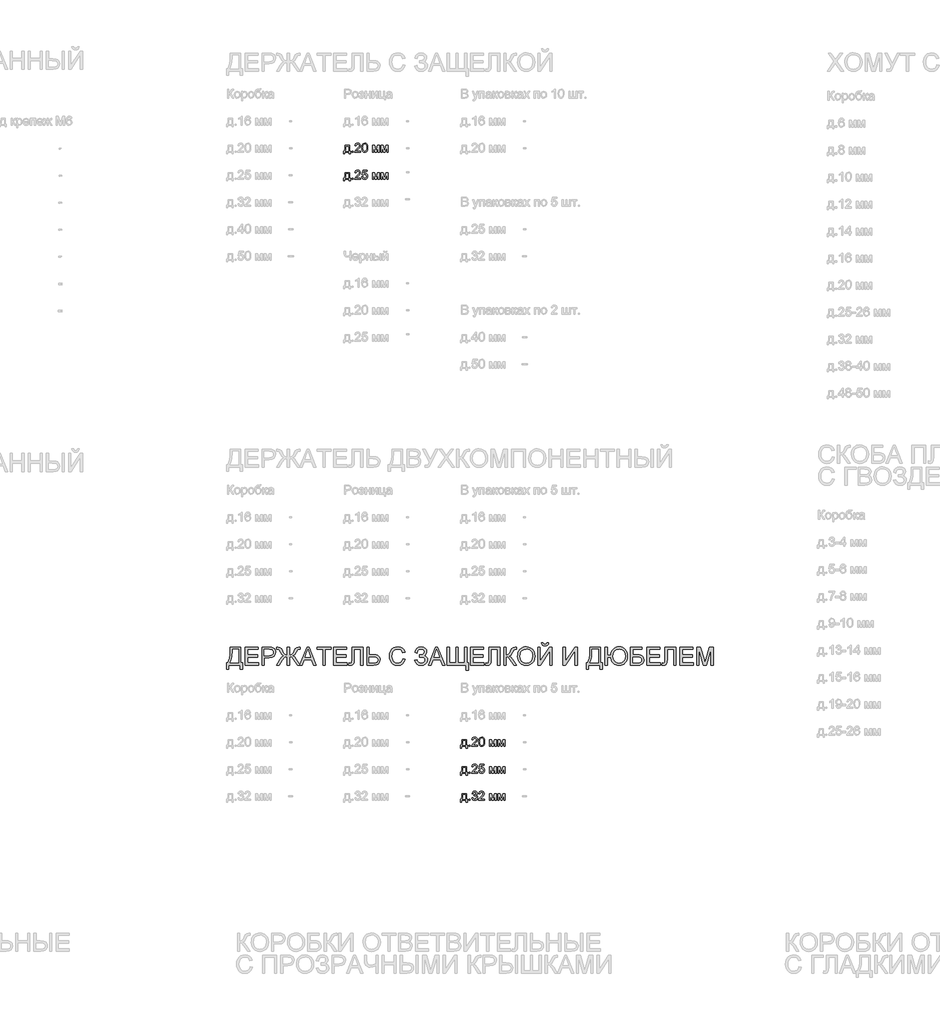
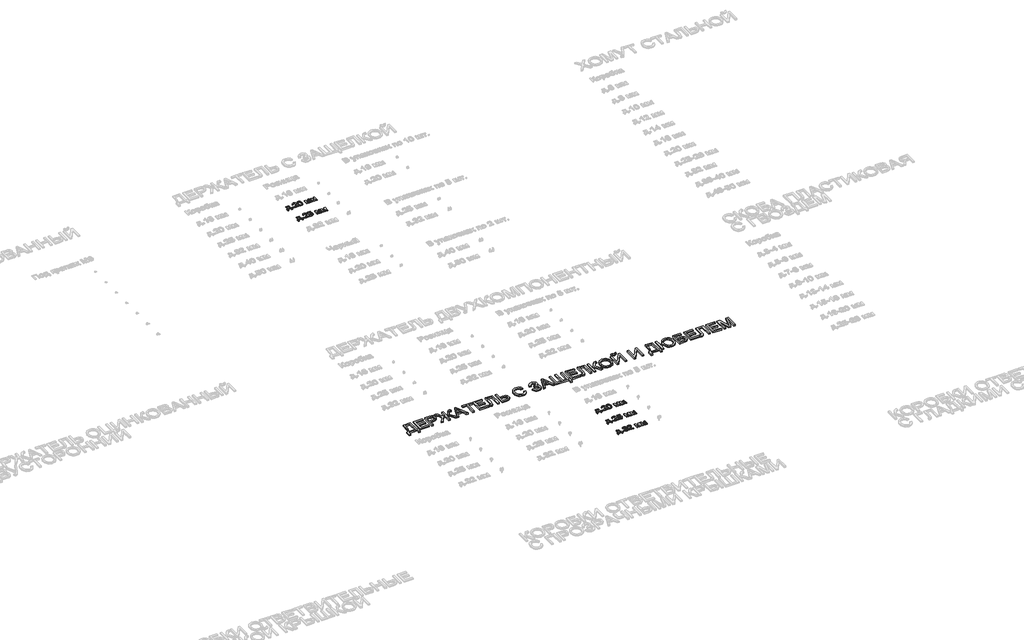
# One storey, part 42 of 98: 6 proxies.
"""IFC4 building model written with IfcOpenShell, lengths in millimetres."""

from ifc_helpers import new_model, si_unit, origin, origin_with_axes, place, context, project, spatial, polyline, outline, extrude, element, save

model = new_model("IFC4")

# Units and contexts
model_context = context("Model", 3, world=origin())
ifc_project = project(units=[si_unit("LENGTHUNIT", "METRE", prefix="MILLI")], contexts=[model_context])

# Site, building, storey
site = spatial("IfcSite", under=ifc_project)
building = spatial("IfcBuilding", under=site)
storey = spatial("IfcBuildingStorey", under=building, Name="Этаж 01", Elevation=0.0)

# Proxies
placement = place(None, origin())
element("IfcBuildingElementProxy", 1, Name="100", ObjectType="100", at=placement, inside=storey, context=model_context, shape_type="SweptSolid", body=[
    extrude(outline(polyline([(7074.7606918, -32485.7395637), (7121.8495872, -32485.7395637), (7121.8495872, -32546.9551277), (7131.2673663, -32546.9551277), (7131.2673663, -32579.9173545), (7118.7103275, -32579.9173545), (7118.7103275, -32559.5121665), (7066.9125426, -32559.5121665), (7066.9125426, -32579.9173545), (7054.3555038, -32579.9173545), (7054.3555038, -32546.9551277), (7062.2036531, -32546.9551277), (7071.903475, -32523.0060098), (7074.7606918, -32485.7395637)]), holes=[polyline([(7085.7481007, -32498.2966025), (7082.8050448, -32526.905559), (7076.3303217, -32546.9551277), (7109.2925484, -32546.9551277), (7109.2925484, -32498.2966025), (7085.7481007, -32498.2966025)])]), origin_with_axes(), (0.0, 0.0, 1.0), 10.0),
    extrude(outline(polyline([(7148.5332946, -32559.5121665), (7148.5332946, -32546.9551277), (7161.0903334, -32546.9551277), (7161.0903334, -32559.5121665), (7148.5332946, -32559.5121665)])), origin_with_axes(), (0.0, 0.0, 1.0), 10.0),
    extrude(outline(polyline([(7245.850345, -32546.9551277), (7245.850345, -32559.5121665), (7179.9258915, -32559.5121665), (7181.2747922, -32550.8546768), (7188.9022122, -32537.5250859), (7204.6230361, -32522.9692216), (7226.3035484, -32502.0489988), (7231.7236764, -32487.8242283), (7226.6101167, -32476.3095219), (7213.2560003, -32471.6128951), (7199.3377981, -32476.1991573), (7194.0525601, -32488.8788234), (7181.4955214, -32487.3091935), (7184.5397449, -32475.1629563), (7191.1217669, -32466.2908689), (7200.8982309, -32460.8646095), (7213.5257804, -32459.0558563), (7226.2453004, -32461.0669445), (7236.0033703, -32467.1002093), (7242.211379, -32476.1133182), (7244.2807152, -32487.0639389), (7242.0488978, -32498.9710528), (7234.6299442, -32511.2828369), (7216.6405146, -32528.4874515), (7202.195015, -32540.5662437), (7196.5296322, -32546.9551277), (7245.850345, -32546.9551277)])), origin_with_axes(), (0.0, 0.0, 1.0), 10.0),
    extrude(outline(polyline([(7258.4073838, -32510.0933518), (7262.0984665, -32481.1900897), (7273.06135, -32464.5250353), (7291.3696106, -32459.0558563), (7306.0358395, -32462.2932179), (7316.1648571, -32471.6251578), (7322.050969, -32486.4875904), (7324.3318374, -32510.0933518), (7320.6775429, -32538.8739865), (7309.7514476, -32555.5758291), (7301.520088, -32559.7053045), (7291.3696106, -32561.0817963), (7278.3220625, -32558.6905633), (7268.4137741, -32551.5168644), (7260.9089814, -32534.5268476), (7258.4073838, -32510.0933518)]), holes=[polyline([(7270.9644226, -32510.0688263), (7272.4359506, -32529.8210238), (7276.8505345, -32541.2529568), (7283.4233595, -32546.7068073), (7291.3696106, -32548.5247575), (7299.3158617, -32546.700676), (7305.8886867, -32541.2284313), (7310.3032706, -32529.7903669), (7311.7747986, -32510.0688263), (7310.3523215, -32490.7611529), (7306.0848904, -32479.2403151), (7299.5243281, -32473.5197501), (7291.2224578, -32471.6128951), (7283.3620458, -32473.2928895), (7277.0467382, -32478.3328729), (7272.4850015, -32490.5710806), (7270.9644226, -32510.0688263)])]), origin_with_axes(), (0.0, 0.0, 1.0), 10.0),
    extrude(outline(polyline([(7377.6992521, -32485.7395637), (7399.306188, -32485.7395637), (7415.9589796, -32544.7968867), (7433.911621, -32485.7395637), (7454.6111146, -32485.7395637), (7454.6111146, -32559.5121665), (7442.0540758, -32559.5121665), (7442.0540758, -32500.111487), (7424.0033326, -32559.5121665), (7407.5222192, -32559.5121665), (7390.2562909, -32497.2665329), (7390.2562909, -32559.5121665), (7377.6992521, -32559.5121665), (7377.6992521, -32485.7395637)])), origin_with_axes(), (0.0, 0.0, 1.0), 10.0),
    extrude(outline(polyline([(7473.4466727, -32485.7395637), (7495.0536086, -32485.7395637), (7511.7064002, -32544.7968867), (7529.6590416, -32485.7395637), (7550.3585352, -32485.7395637), (7550.3585352, -32559.5121665), (7537.8014964, -32559.5121665), (7537.8014964, -32500.111487), (7519.7507532, -32559.5121665), (7503.2696398, -32559.5121665), (7486.0037115, -32497.2665329), (7486.0037115, -32559.5121665), (7473.4466727, -32559.5121665), (7473.4466727, -32485.7395637)])), origin_with_axes(), (0.0, 0.0, 1.0), 10.0),
])
element("IfcBuildingElementProxy", 2, Name="100", ObjectType="100", at=placement, inside=storey, context=model_context, shape_type="SweptSolid", body=[
    extrude(outline(polyline([(7074.7606918, -32785.7395637), (7121.8495872, -32785.7395637), (7121.8495872, -32846.9551277), (7131.2673663, -32846.9551277), (7131.2673663, -32879.9173545), (7118.7103275, -32879.9173545), (7118.7103275, -32859.5121665), (7066.9125426, -32859.5121665), (7066.9125426, -32879.9173545), (7054.3555038, -32879.9173545), (7054.3555038, -32846.9551277), (7062.2036531, -32846.9551277), (7071.903475, -32823.0060098), (7074.7606918, -32785.7395637)]), holes=[polyline([(7085.7481007, -32798.2966025), (7082.8050448, -32826.905559), (7076.3303217, -32846.9551277), (7109.2925484, -32846.9551277), (7109.2925484, -32798.2966025), (7085.7481007, -32798.2966025)])]), origin_with_axes(), (0.0, 0.0, 1.0), 10.0),
    extrude(outline(polyline([(7148.5332946, -32859.5121665), (7148.5332946, -32846.9551277), (7161.0903334, -32846.9551277), (7161.0903334, -32859.5121665), (7148.5332946, -32859.5121665)])), origin_with_axes(), (0.0, 0.0, 1.0), 10.0),
    extrude(outline(polyline([(7245.850345, -32846.9551277), (7245.850345, -32859.5121665), (7179.9258915, -32859.5121665), (7181.2747922, -32850.8546768), (7188.9022122, -32837.5250859), (7204.6230361, -32822.9692216), (7226.3035484, -32802.0489988), (7231.7236764, -32787.8242283), (7226.6101167, -32776.3095219), (7213.2560003, -32771.6128951), (7199.3377981, -32776.1991573), (7194.0525601, -32788.8788234), (7181.4955214, -32787.3091935), (7184.5397449, -32775.1629563), (7191.1217669, -32766.2908689), (7200.8982309, -32760.8646095), (7213.5257804, -32759.0558563), (7226.2453004, -32761.0669445), (7236.0033703, -32767.1002093), (7242.211379, -32776.1133182), (7244.2807152, -32787.0639389), (7242.0488978, -32798.9710528), (7234.6299442, -32811.2828369), (7216.6405146, -32828.4874515), (7202.195015, -32840.5662437), (7196.5296322, -32846.9551277), (7245.850345, -32846.9551277)])), origin_with_axes(), (0.0, 0.0, 1.0), 10.0),
    extrude(outline(polyline([(7258.4073838, -32832.8284591), (7270.9644226, -32831.2588292), (7277.2919929, -32844.1960127), (7290.4131174, -32848.5247575), (7299.4139635, -32847.019507), (7306.1584668, -32842.5037555), (7310.3707156, -32835.4986692), (7311.7747986, -32826.5254142), (7306.5140861, -32811.6139307), (7299.9075386, -32807.5120464), (7290.6093211, -32806.1447517), (7279.585124, -32808.3275182), (7272.5340524, -32813.9929009), (7259.9770137, -32812.4232711), (7270.9644226, -32760.6254862), (7319.6229478, -32760.6254862), (7319.6229478, -32773.1825249), (7281.1179657, -32773.1825249), (7275.7468885, -32800.847251), (7284.7170778, -32795.4025974), (7294.1164628, -32793.5877129), (7305.8488328, -32795.8379245), (7315.5885086, -32802.5885591), (7322.1460052, -32812.8769922), (7324.3318374, -32825.7405993), (7322.3636687, -32838.2976381), (7316.4591627, -32849.0397923), (7305.1529227, -32858.0712953), (7290.3640665, -32861.0817963), (7278.0308226, -32859.1473501), (7268.2053076, -32853.3440117), (7261.4700014, -32844.3462312), (7258.4073838, -32832.8284591)])), origin_with_axes(), (0.0, 0.0, 1.0), 10.0),
    extrude(outline(polyline([(7377.6992521, -32785.7395637), (7399.306188, -32785.7395637), (7415.9589796, -32844.7968867), (7433.911621, -32785.7395637), (7454.6111146, -32785.7395637), (7454.6111146, -32859.5121665), (7442.0540758, -32859.5121665), (7442.0540758, -32800.111487), (7424.0033326, -32859.5121665), (7407.5222192, -32859.5121665), (7390.2562909, -32797.2665329), (7390.2562909, -32859.5121665), (7377.6992521, -32859.5121665), (7377.6992521, -32785.7395637)])), origin_with_axes(), (0.0, 0.0, 1.0), 10.0),
    extrude(outline(polyline([(7473.4466727, -32785.7395637), (7495.0536086, -32785.7395637), (7511.7064002, -32844.7968867), (7529.6590416, -32785.7395637), (7550.3585352, -32785.7395637), (7550.3585352, -32859.5121665), (7537.8014964, -32859.5121665), (7537.8014964, -32800.111487), (7519.7507532, -32859.5121665), (7503.2696398, -32859.5121665), (7486.0037115, -32797.2665329), (7486.0037115, -32859.5121665), (7473.4466727, -32859.5121665), (7473.4466727, -32785.7395637)])), origin_with_axes(), (0.0, 0.0, 1.0), 10.0),
])
element("IfcBuildingElementProxy", 3, Name="100", ObjectType="100", at=placement, inside=storey, context=model_context, shape_type="SweptSolid", body=[
    extrude(outline(polyline([(8374.7606918, -39085.7395637), (8421.8495872, -39085.7395637), (8421.8495872, -39146.9551277), (8431.2673663, -39146.9551277), (8431.2673663, -39179.9173545), (8418.7103275, -39179.9173545), (8418.7103275, -39159.5121665), (8366.9125426, -39159.5121665), (8366.9125426, -39179.9173545), (8354.3555038, -39179.9173545), (8354.3555038, -39146.9551277), (8362.2036531, -39146.9551277), (8371.903475, -39123.0060098), (8374.7606918, -39085.7395637)]), holes=[polyline([(8385.7481007, -39098.2966025), (8382.8050448, -39126.905559), (8376.3303217, -39146.9551277), (8409.2925484, -39146.9551277), (8409.2925484, -39098.2966025), (8385.7481007, -39098.2966025)])]), origin_with_axes(), (0.0, 0.0, 1.0), 10.0),
    extrude(outline(polyline([(8448.5332946, -39159.5121665), (8448.5332946, -39146.9551277), (8461.0903334, -39146.9551277), (8461.0903334, -39159.5121665), (8448.5332946, -39159.5121665)])), origin_with_axes(), (0.0, 0.0, 1.0), 10.0),
    extrude(outline(polyline([(8545.850345, -39146.9551277), (8545.850345, -39159.5121665), (8479.9258915, -39159.5121665), (8481.2747922, -39150.8546768), (8488.9022122, -39137.5250859), (8504.6230361, -39122.9692216), (8526.3035484, -39102.0489988), (8531.7236764, -39087.8242283), (8526.6101167, -39076.3095219), (8513.2560003, -39071.6128951), (8499.3377981, -39076.1991573), (8494.0525601, -39088.8788234), (8481.4955214, -39087.3091935), (8484.5397449, -39075.1629563), (8491.1217669, -39066.2908689), (8500.8982309, -39060.8646095), (8513.5257804, -39059.0558563), (8526.2453004, -39061.0669445), (8536.0033703, -39067.1002093), (8542.211379, -39076.1133182), (8544.2807152, -39087.0639389), (8542.0488978, -39098.9710528), (8534.6299442, -39111.2828369), (8516.6405146, -39128.4874515), (8502.195015, -39140.5662437), (8496.5296322, -39146.9551277), (8545.850345, -39146.9551277)])), origin_with_axes(), (0.0, 0.0, 1.0), 10.0),
    extrude(outline(polyline([(8558.4073838, -39110.0933518), (8562.0984665, -39081.1900897), (8573.06135, -39064.5250353), (8591.3696106, -39059.0558563), (8606.0358395, -39062.2932179), (8616.1648571, -39071.6251578), (8622.050969, -39086.4875904), (8624.3318374, -39110.0933518), (8620.6775429, -39138.8739865), (8609.7514476, -39155.5758291), (8601.520088, -39159.7053045), (8591.3696106, -39161.0817963), (8578.3220625, -39158.6905633), (8568.4137741, -39151.5168644), (8560.9089814, -39134.5268476), (8558.4073838, -39110.0933518)]), holes=[polyline([(8570.9644226, -39110.0688263), (8572.4359506, -39129.8210238), (8576.8505345, -39141.2529568), (8583.4233595, -39146.7068073), (8591.3696106, -39148.5247575), (8599.3158617, -39146.700676), (8605.8886867, -39141.2284313), (8610.3032706, -39129.7903669), (8611.7747986, -39110.0688263), (8610.3523215, -39090.7611529), (8606.0848904, -39079.2403151), (8599.5243281, -39073.5197501), (8591.2224578, -39071.6128951), (8583.3620458, -39073.2928895), (8577.0467382, -39078.3328729), (8572.4850015, -39090.5710806), (8570.9644226, -39110.0688263)])]), origin_with_axes(), (0.0, 0.0, 1.0), 10.0),
    extrude(outline(polyline([(8677.6992521, -39085.7395637), (8699.306188, -39085.7395637), (8715.9589796, -39144.7968867), (8733.911621, -39085.7395637), (8754.6111146, -39085.7395637), (8754.6111146, -39159.5121665), (8742.0540758, -39159.5121665), (8742.0540758, -39100.111487), (8724.0033326, -39159.5121665), (8707.5222192, -39159.5121665), (8690.2562909, -39097.2665329), (8690.2562909, -39159.5121665), (8677.6992521, -39159.5121665), (8677.6992521, -39085.7395637)])), origin_with_axes(), (0.0, 0.0, 1.0), 10.0),
    extrude(outline(polyline([(8773.4466727, -39085.7395637), (8795.0536086, -39085.7395637), (8811.7064002, -39144.7968867), (8829.6590416, -39085.7395637), (8850.3585352, -39085.7395637), (8850.3585352, -39159.5121665), (8837.8014964, -39159.5121665), (8837.8014964, -39100.111487), (8819.7507532, -39159.5121665), (8803.2696398, -39159.5121665), (8786.0037115, -39097.2665329), (8786.0037115, -39159.5121665), (8773.4466727, -39159.5121665), (8773.4466727, -39085.7395637)])), origin_with_axes(), (0.0, 0.0, 1.0), 10.0),
])
element("IfcBuildingElementProxy", 4, Name="100", ObjectType="100", at=placement, inside=storey, context=model_context, shape_type="SweptSolid", body=[
    extrude(outline(polyline([(8374.7606918, -39385.7395637), (8421.8495872, -39385.7395637), (8421.8495872, -39446.9551277), (8431.2673663, -39446.9551277), (8431.2673663, -39479.9173545), (8418.7103275, -39479.9173545), (8418.7103275, -39459.5121665), (8366.9125426, -39459.5121665), (8366.9125426, -39479.9173545), (8354.3555038, -39479.9173545), (8354.3555038, -39446.9551277), (8362.2036531, -39446.9551277), (8371.903475, -39423.0060098), (8374.7606918, -39385.7395637)]), holes=[polyline([(8385.7481007, -39398.2966025), (8382.8050448, -39426.905559), (8376.3303217, -39446.9551277), (8409.2925484, -39446.9551277), (8409.2925484, -39398.2966025), (8385.7481007, -39398.2966025)])]), origin_with_axes(), (0.0, 0.0, 1.0), 10.0),
    extrude(outline(polyline([(8448.5332946, -39459.5121665), (8448.5332946, -39446.9551277), (8461.0903334, -39446.9551277), (8461.0903334, -39459.5121665), (8448.5332946, -39459.5121665)])), origin_with_axes(), (0.0, 0.0, 1.0), 10.0),
    extrude(outline(polyline([(8545.850345, -39446.9551277), (8545.850345, -39459.5121665), (8479.9258915, -39459.5121665), (8481.2747922, -39450.8546768), (8488.9022122, -39437.5250859), (8504.6230361, -39422.9692216), (8526.3035484, -39402.0489988), (8531.7236764, -39387.8242283), (8526.6101167, -39376.3095219), (8513.2560003, -39371.6128951), (8499.3377981, -39376.1991573), (8494.0525601, -39388.8788234), (8481.4955214, -39387.3091935), (8484.5397449, -39375.1629563), (8491.1217669, -39366.2908689), (8500.8982309, -39360.8646095), (8513.5257804, -39359.0558563), (8526.2453004, -39361.0669445), (8536.0033703, -39367.1002093), (8542.211379, -39376.1133182), (8544.2807152, -39387.0639389), (8542.0488978, -39398.9710528), (8534.6299442, -39411.2828369), (8516.6405146, -39428.4874515), (8502.195015, -39440.5662437), (8496.5296322, -39446.9551277), (8545.850345, -39446.9551277)])), origin_with_axes(), (0.0, 0.0, 1.0), 10.0),
    extrude(outline(polyline([(8558.4073838, -39432.8284591), (8570.9644226, -39431.2588292), (8577.2919929, -39444.1960127), (8590.4131174, -39448.5247575), (8599.4139635, -39447.019507), (8606.1584668, -39442.5037555), (8610.3707156, -39435.4986692), (8611.7747986, -39426.5254142), (8606.5140861, -39411.6139307), (8599.9075386, -39407.5120464), (8590.6093211, -39406.1447517), (8579.585124, -39408.3275182), (8572.5340524, -39413.9929009), (8559.9770137, -39412.4232711), (8570.9644226, -39360.6254862), (8619.6229478, -39360.6254862), (8619.6229478, -39373.1825249), (8581.1179657, -39373.1825249), (8575.7468885, -39400.847251), (8584.7170778, -39395.4025974), (8594.1164628, -39393.5877129), (8605.8488328, -39395.8379245), (8615.5885086, -39402.5885591), (8622.1460052, -39412.8769922), (8624.3318374, -39425.7405993), (8622.3636687, -39438.2976381), (8616.4591627, -39449.0397923), (8605.1529227, -39458.0712953), (8590.3640665, -39461.0817963), (8578.0308226, -39459.1473501), (8568.2053076, -39453.3440117), (8561.4700014, -39444.3462312), (8558.4073838, -39432.8284591)])), origin_with_axes(), (0.0, 0.0, 1.0), 10.0),
    extrude(outline(polyline([(8677.6992521, -39385.7395637), (8699.306188, -39385.7395637), (8715.9589796, -39444.7968867), (8733.911621, -39385.7395637), (8754.6111146, -39385.7395637), (8754.6111146, -39459.5121665), (8742.0540758, -39459.5121665), (8742.0540758, -39400.111487), (8724.0033326, -39459.5121665), (8707.5222192, -39459.5121665), (8690.2562909, -39397.2665329), (8690.2562909, -39459.5121665), (8677.6992521, -39459.5121665), (8677.6992521, -39385.7395637)])), origin_with_axes(), (0.0, 0.0, 1.0), 10.0),
    extrude(outline(polyline([(8773.4466727, -39385.7395637), (8795.0536086, -39385.7395637), (8811.7064002, -39444.7968867), (8829.6590416, -39385.7395637), (8850.3585352, -39385.7395637), (8850.3585352, -39459.5121665), (8837.8014964, -39459.5121665), (8837.8014964, -39400.111487), (8819.7507532, -39459.5121665), (8803.2696398, -39459.5121665), (8786.0037115, -39397.2665329), (8786.0037115, -39459.5121665), (8773.4466727, -39459.5121665), (8773.4466727, -39385.7395637)])), origin_with_axes(), (0.0, 0.0, 1.0), 10.0),
])
element("IfcBuildingElementProxy", 5, Name="100", ObjectType="100", at=placement, inside=storey, context=model_context, shape_type="SweptSolid", body=[
    extrude(outline(polyline([(8374.7606918, -39685.7395637), (8421.8495872, -39685.7395637), (8421.8495872, -39746.9551277), (8431.2673663, -39746.9551277), (8431.2673663, -39779.9173545), (8418.7103275, -39779.9173545), (8418.7103275, -39759.5121665), (8366.9125426, -39759.5121665), (8366.9125426, -39779.9173545), (8354.3555038, -39779.9173545), (8354.3555038, -39746.9551277), (8362.2036531, -39746.9551277), (8371.903475, -39723.0060098), (8374.7606918, -39685.7395637)]), holes=[polyline([(8385.7481007, -39698.2966025), (8382.8050448, -39726.905559), (8376.3303217, -39746.9551277), (8409.2925484, -39746.9551277), (8409.2925484, -39698.2966025), (8385.7481007, -39698.2966025)])]), origin_with_axes(), (0.0, 0.0, 1.0), 10.0),
    extrude(outline(polyline([(8448.5332946, -39759.5121665), (8448.5332946, -39746.9551277), (8461.0903334, -39746.9551277), (8461.0903334, -39759.5121665), (8448.5332946, -39759.5121665)])), origin_with_axes(), (0.0, 0.0, 1.0), 10.0),
    extrude(outline(polyline([(8481.4955214, -39732.8284591), (8494.0525601, -39731.2588292), (8500.9810044, -39744.4780556), (8513.9427133, -39748.5247575), (8522.551152, -39747.1329373), (8529.1975534, -39742.9574767), (8534.8629361, -39729.1741646), (8529.2466043, -39716.1879302), (8514.9727829, -39711.049845), (8506.1681405, -39712.4232711), (8507.5660921, -39699.8662323), (8509.5771803, -39700.0133851), (8523.8264763, -39696.4081416), (8528.572154, -39691.8341421), (8530.1540466, -39685.3226308), (8525.5677844, -39675.5001815), (8513.7465096, -39671.6128951), (8501.778082, -39675.5369697), (8495.62219, -39687.3091935), (8483.0651512, -39685.7395637), (8486.7623653, -39674.4639805), (8493.3413216, -39666.0456142), (8502.3421678, -39660.8032958), (8513.3050512, -39659.0558563), (8528.4495267, -39662.5016843), (8539.0445281, -39671.9194634), (8542.7110854, -39684.5868668), (8539.2284691, -39696.1628869), (8528.9277733, -39704.47702), (8542.6129835, -39713.0609332), (8547.4199749, -39729.3948938), (8545.0164792, -39741.6331015), (8537.8059921, -39751.860221), (8526.9228164, -39758.7764025), (8513.5012549, -39761.0817963), (8501.3611491, -39759.1136276), (8491.4773862, -39753.2091216), (8484.6041242, -39744.1776186), (8481.4955214, -39732.8284591)])), origin_with_axes(), (0.0, 0.0, 1.0), 10.0),
    extrude(outline(polyline([(8622.7622075, -39746.9551277), (8622.7622075, -39759.5121665), (8556.837754, -39759.5121665), (8558.1866546, -39750.8546768), (8565.8140747, -39737.5250859), (8581.5348986, -39722.9692216), (8603.2154108, -39702.0489988), (8608.6355389, -39687.8242283), (8603.5219792, -39676.3095219), (8590.1678627, -39671.6128951), (8576.2496606, -39676.1991573), (8570.9644226, -39688.8788234), (8558.4073838, -39687.3091935), (8561.4516073, -39675.1629563), (8568.0336294, -39666.2908689), (8577.8100934, -39660.8646095), (8590.4376429, -39659.0558563), (8603.1571628, -39661.0669445), (8612.9152328, -39667.1002093), (8619.1232414, -39676.1133182), (8621.1925777, -39687.0639389), (8618.9607602, -39698.9710528), (8611.5418067, -39711.2828369), (8593.5523771, -39728.4874515), (8579.1068774, -39740.5662437), (8573.4414947, -39746.9551277), (8622.7622075, -39746.9551277)])), origin_with_axes(), (0.0, 0.0, 1.0), 10.0),
    extrude(outline(polyline([(8677.6992521, -39685.7395637), (8699.306188, -39685.7395637), (8715.9589796, -39744.7968867), (8733.911621, -39685.7395637), (8754.6111146, -39685.7395637), (8754.6111146, -39759.5121665), (8742.0540758, -39759.5121665), (8742.0540758, -39700.111487), (8724.0033326, -39759.5121665), (8707.5222192, -39759.5121665), (8690.2562909, -39697.2665329), (8690.2562909, -39759.5121665), (8677.6992521, -39759.5121665), (8677.6992521, -39685.7395637)])), origin_with_axes(), (0.0, 0.0, 1.0), 10.0),
    extrude(outline(polyline([(8773.4466727, -39685.7395637), (8795.0536086, -39685.7395637), (8811.7064002, -39744.7968867), (8829.6590416, -39685.7395637), (8850.3585352, -39685.7395637), (8850.3585352, -39759.5121665), (8837.8014964, -39759.5121665), (8837.8014964, -39700.111487), (8819.7507532, -39759.5121665), (8803.2696398, -39759.5121665), (8786.0037115, -39697.2665329), (8786.0037115, -39759.5121665), (8773.4466727, -39759.5121665), (8773.4466727, -39685.7395637)])), origin_with_axes(), (0.0, 0.0, 1.0), 10.0),
])
element("IfcBuildingElementProxy", 6, Name="200", ObjectType="200", at=placement, inside=storey, context=model_context, shape_type="SweptSolid", body=[
    extrude(outline(polyline([(5795.1658798, -38058.5995462), (5914.4577481, -38058.5995462), (5914.4577481, -38234.3980889), (5933.2933063, -38234.3980889), (5933.2933063, -38306.6010618), (5908.1792287, -38306.6010618), (5908.1792287, -38259.5121665), (5779.4695814, -38259.5121665), (5779.4695814, -38306.6010618), (5754.3555038, -38306.6010618), (5754.3555038, -38234.3980889), (5770.0518023, -38234.3980889), (5781.0392112, -38211.6169964), (5788.8873604, -38179.5714089), (5793.59625, -38138.2613265), (5795.1658798, -38087.6867492), (5795.1658798, -38058.5995462)]), holes=[polyline([(5889.3436706, -38083.7136237), (5820.2799574, -38083.7136237), (5820.2799574, -38093.8181158), (5815.1786604, -38162.6365744), (5807.6248167, -38202.4046181), (5795.1658798, -38234.3980889), (5889.3436706, -38234.3980889), (5889.3436706, -38083.7136237)])]), origin_with_axes(), (0.0, 0.0, 1.0), 20.0),
    extrude(outline(polyline([(5964.6859032, -38259.5121665), (5964.6859032, -38058.5995462), (6109.091849, -38058.5995462), (6109.091849, -38083.7136237), (5989.7999807, -38083.7136237), (5989.7999807, -38143.3595578), (6102.8133297, -38143.3595578), (6102.8133297, -38168.4736354), (5989.7999807, -38168.4736354), (5989.7999807, -38234.3980889), (6112.2311087, -38234.3980889), (6112.2311087, -38259.5121665), (5964.6859032, -38259.5121665)])), origin_with_axes(), (0.0, 0.0, 1.0), 20.0),
    extrude(outline(polyline([(6149.902225, -38259.5121665), (6149.902225, -38058.5995462), (6224.3615409, -38058.5995462), (6254.3807117, -38060.5125325), (6278.7835507, -38069.9057861), (6287.6556381, -38078.232182), (6294.6024765, -38089.3299555), (6299.0906368, -38102.4204232), (6300.5866903, -38116.7249014), (6296.5461197, -38140.4042392), (6284.4244079, -38160.1349768), (6274.7169218, -38167.9034183), (6261.7567457, -38173.4523051), (6226.0783235, -38177.8914145), (6175.0163026, -38177.8914145), (6175.0163026, -38259.5121665), (6149.902225, -38259.5121665)]), holes=[polyline([(6175.0163026, -38152.7773369), (6227.5498515, -38152.7773369), (6249.8189749, -38150.4719431), (6264.5342547, -38143.5557616), (6272.7380232, -38132.4579881), (6275.4726127, -38117.6078182), (6273.8600633, -38106.3261037), (6269.0224151, -38096.8102227), (6261.5605419, -38089.6487866), (6252.0753178, -38085.4304063), (6226.9612403, -38083.7136237), (6175.0163026, -38083.7136237), (6175.0163026, -38152.7773369)])]), origin_with_axes(), (0.0, 0.0, 1.0), 20.0),
    extrude(outline(polyline([(6454.4104152, -38058.5995462), (6454.4104152, -38146.4988175), (6472.7799895, -38144.8065604), (6484.3314841, -38139.7297888), (6493.3691185, -38127.9820904), (6504.1971119, -38106.2770527), (6518.4218823, -38078.1953938), (6534.33891, -38064.2404034), (6556.9759154, -38058.5995462), (6573.7022835, -38058.8938518), (6573.7022835, -38083.7136237), (6568.208579, -38083.5664709), (6562.5677218, -38083.4193181), (6550.8322861, -38084.9521597), (6542.6039922, -38089.5506847), (6527.398203, -38115.2043225), (6511.3340226, -38143.9236436), (6491.6400731, -38156.6033097), (6511.4934381, -38168.3264826), (6530.7336664, -38192.5085924), (6573.7022835, -38259.5121665), (6544.5169785, -38259.5121665), (6508.0721355, -38202.6621355), (6482.9825835, -38173.7711361), (6470.7505071, -38167.4435658), (6454.4104152, -38165.3343757), (6454.4104152, -38259.5121665), (6429.2963376, -38259.5121665), (6429.2963376, -38165.3343757), (6415.5436824, -38166.9714506), (6403.5200725, -38171.8826752), (6391.4228862, -38182.2017652), (6377.4495018, -38200.062436), (6375.6346173, -38202.6621355), (6339.1897743, -38259.5121665), (6310.0044693, -38259.5121665), (6352.9240354, -38192.5085924), (6372.384993, -38168.2529062), (6392.1157307, -38156.6033097), (6373.4763762, -38145.2480188), (6356.3085498, -38115.2043225), (6340.6613023, -38089.0111244), (6332.5801611, -38085.0379989), (6321.2861839, -38083.7136237), (6310.0044693, -38084.0079293), (6310.0044693, -38058.8938518), (6325.8479206, -38058.5995462), (6349.3923683, -38064.1177761), (6365.0150904, -38077.9501391), (6379.509641, -38106.3261037), (6390.3437657, -38128.2702647), (6399.3016923, -38139.8524162), (6410.8102674, -38144.7145899), (6429.2963376, -38146.4988175), (6429.2963376, -38058.5995462), (6454.4104152, -38058.5995462)])), origin_with_axes(), (0.0, 0.0, 1.0), 20.0),
    extrude(outline(polyline([(6569.1405467, -38259.5121665), (6649.3388217, -38058.5995462), (6670.7250283, -38058.5995462), (6750.9233033, -38259.5121665), (6724.3867487, -38259.5121665), (6701.3818613, -38196.7269726), (6618.6329378, -38196.7269726), (6595.6771013, -38259.5121665), (6569.1405467, -38259.5121665)]), holes=[polyline([(6627.8545132, -38171.6128951), (6692.2093369, -38171.6128951), (6674.1095427, -38122.2186059), (6660.031925, -38083.7136237), (6647.5239372, -38117.9021238), (6627.8545132, -38171.6128951)])]), origin_with_axes(), (0.0, 0.0, 1.0), 20.0),
    extrude(outline(polyline([(6827.9823186, -38259.5121665), (6827.9823186, -38083.7136237), (6762.057865, -38083.7136237), (6762.057865, -38058.5995462), (6919.0208496, -38058.5995462), (6919.0208496, -38083.7136237), (6853.0963961, -38083.7136237), (6853.0963961, -38259.5121665), (6827.9823186, -38259.5121665)])), origin_with_axes(), (0.0, 0.0, 1.0), 20.0),
    extrude(outline(polyline([(6947.2741869, -38259.5121665), (6947.2741869, -38058.5995462), (7091.6801327, -38058.5995462), (7091.6801327, -38083.7136237), (6972.3882644, -38083.7136237), (6972.3882644, -38143.3595578), (7085.4016133, -38143.3595578), (7085.4016133, -38168.4736354), (6972.3882644, -38168.4736354), (6972.3882644, -38234.3980889), (7094.8193924, -38234.3980889), (7094.8193924, -38259.5121665), (6947.2741869, -38259.5121665)])), origin_with_axes(), (0.0, 0.0, 1.0), 20.0),
    extrude(outline(polyline([(7148.1868072, -38058.5995462), (7270.6179351, -38058.5995462), (7270.6179351, -38259.5121665), (7245.5038576, -38259.5121665), (7245.5038576, -38083.7136237), (7173.3008847, -38083.7136237), (7173.3008847, -38186.230073), (7170.3823542, -38231.9700678), (7165.863537, -38244.8949885), (7158.1441465, -38254.5825477), (7147.5736705, -38260.6342065), (7134.5015969, -38262.6514262), (7113.6549505, -38259.5121665), (7116.7942102, -38234.3980889), (7128.8116887, -38237.5373486), (7137.3036315, -38235.8512228), (7143.3552903, -38230.7928454), (7146.9789279, -38219.480474), (7148.1868072, -38199.0323665), (7148.1868072, -38058.5995462)])), origin_with_axes(), (0.0, 0.0, 1.0), 20.0),
    extrude(outline(polyline([(7314.5675708, -38058.5995462), (7339.6816484, -38058.5995462), (7339.6816484, -38143.3595578), (7386.7214928, -38143.3595578), (7415.1035888, -38145.3277265), (7434.4235249, -38151.2322325), (7447.1277164, -38160.5273843), (7455.6625787, -38172.6674901), (7460.500227, -38186.4324081), (7462.1127764, -38200.6019963), (7458.2377527, -38222.6503905), (7446.6126816, -38241.8047798), (7437.1949026, -38249.5517614), (7424.4416601, -38255.0853198), (7388.9287848, -38259.5121665), (7314.5675708, -38259.5121665), (7314.5675708, -38058.5995462)]), holes=[polyline([(7339.6816484, -38234.3980889), (7388.8797339, -38234.3980889), (7413.6259294, -38231.9148855), (7427.9242763, -38224.4652751), (7434.7300932, -38213.508523), (7436.9986988, -38200.5038944), (7435.3554926, -38189.9702066), (7430.4258739, -38181.128776), (7422.7555343, -38174.5498197), (7412.8901654, -38170.8035547), (7375.7340839, -38168.4736354), (7339.6816484, -38168.4736354), (7339.6816484, -38234.3980889)])]), origin_with_axes(), (0.0, 0.0, 1.0), 20.0),
    extrude(outline(polyline([(7716.3928114, -38188.0940085), (7741.506889, -38194.5687316), (7729.9186061, -38223.8337443), (7711.7329728, -38245.2138196), (7687.8451686, -38258.2920245), (7659.150373, -38262.6514262), (7630.0202503, -38259.3527509), (7606.8866042, -38249.4567253), (7589.154692, -38233.3067057), (7576.2297713, -38211.2460487), (7568.3387025, -38185.310368), (7565.7083462, -38157.5352774), (7568.682059, -38128.2396078), (7577.6031974, -38102.9415893), (7592.0057775, -38082.4444308), (7611.4238155, -38067.5513414), (7634.4532284, -38058.4830502), (7659.6899332, -38055.4602865), (7687.2259006, -38059.3720983), (7709.9916647, -38071.107534), (7727.2759871, -38089.9430921), (7738.3676293, -38115.1552716), (7713.2535517, -38121.1394853), (7704.5470112, -38102.8250933), (7692.65216, -38090.2619232), (7677.4218454, -38082.9962538), (7658.7089146, -38080.574364), (7637.1387669, -38083.2599026), (7619.4191175, -38091.3165183), (7605.9730306, -38103.8980825), (7597.2235705, -38120.1584667), (7592.4227104, -38138.5403037), (7590.8224237, -38157.4862265), (7592.717016, -38180.6873176), (7598.4007928, -38200.7491491), (7608.0883521, -38216.9053001), (7621.9942915, -38228.3893497), (7638.6654772, -38235.2503489), (7656.6487754, -38237.5373486), (7677.6119178, -38234.4226144), (7695.0801812, -38225.0784117), (7708.2687507, -38209.6028424), (7716.3928114, -38188.0940085)])), origin_with_axes(), (0.0, 0.0, 1.0), 20.0),
    extrude(outline(polyline([(7845.1024588, -38203.005492), (7870.2165364, -38196.7269726), (7875.5201684, -38210.3202123), (7885.6430547, -38223.9257148), (7900.2173131, -38234.1344402), (7918.8750616, -38237.5373486), (7937.7780648, -38234.9805687), (7952.2051703, -38227.3102291), (7961.3470379, -38216.0223833), (7964.3943271, -38202.6130845), (7961.0649951, -38188.5661237), (7951.0769989, -38177.7197362), (7935.3500436, -38170.7851606), (7914.8038342, -38168.4736354), (7901.6091333, -38168.4736354), (7901.6091333, -38143.3595578), (7930.0341488, -38141.3239441), (7939.2986437, -38137.7064379), (7947.4227044, -38130.9251464), (7953.0880871, -38121.9917453), (7954.976548, -38111.91791), (7952.4626877, -38100.0905038), (7944.9211068, -38089.9185667), (7933.0875693, -38082.9104147), (7917.6978392, -38080.574364), (7903.7857684, -38082.3708544), (7892.0687269, -38087.7603256), (7883.0924062, -38096.1173783), (7877.402498, -38106.816613), (7873.355796, -38124.5239997), (7848.2417185, -38118.2454803), (7856.0438825, -38090.776958), (7870.1797482, -38071.1565849), (7890.6493155, -38059.3843611), (7917.4525845, -38055.4602865), (7943.3085574, -38059.5376452), (7963.1925793, -38071.7697216), (7975.866114, -38089.4587142), (7980.0906256, -38109.9068218), (7978.4474193, -38123.1229824), (7973.5178006, -38134.7633819), (7965.3017694, -38144.8280201), (7953.7993257, -38153.3168972), (7967.7665787, -38159.7487007), (7979.2567597, -38170.607351), (7986.9454934, -38184.9608801), (7989.5084047, -38201.8773205), (7984.5910487, -38225.6608915), (7969.8389806, -38245.2138196), (7946.9689833, -38258.2920245), (7917.6978392, -38262.6514262), (7892.2281424, -38258.9235553), (7871.6390134, -38247.7399426), (7855.9304522, -38229.1005882), (7845.1024588, -38203.005492)])), origin_with_axes(), (0.0, 0.0, 1.0), 20.0),
    extrude(outline(polyline([(8000.6429664, -38259.5121665), (8080.8412413, -38058.5995462), (8102.227448, -38058.5995462), (8182.4257229, -38259.5121665), (8155.8891683, -38259.5121665), (8132.8842809, -38196.7269726), (8050.1353575, -38196.7269726), (8027.179521, -38259.5121665), (8000.6429664, -38259.5121665)]), holes=[polyline([(8059.3569328, -38171.6128951), (8123.7117565, -38171.6128951), (8105.6119623, -38122.2186059), (8091.5343447, -38083.7136237), (8079.0263568, -38117.9021238), (8059.3569328, -38171.6128951)])]), origin_with_axes(), (0.0, 0.0, 1.0), 20.0),
    extrude(outline(polyline([(8206.1173234, -38058.5995462), (8231.231401, -38058.5995462), (8231.231401, -38234.3980889), (8303.4343739, -38234.3980889), (8303.4343739, -38058.5995462), (8328.5484514, -38058.5995462), (8328.5484514, -38234.3980889), (8400.7514243, -38234.3980889), (8400.7514243, -38058.5995462), (8425.8655019, -38058.5995462), (8425.8655019, -38234.3980889), (8444.70106, -38234.3980889), (8444.70106, -38316.0188409), (8419.5869825, -38316.0188409), (8419.5869825, -38259.5121665), (8206.1173234, -38259.5121665), (8206.1173234, -38058.5995462)])), origin_with_axes(), (0.0, 0.0, 1.0), 20.0),
    extrude(outline(polyline([(8469.8151376, -38259.5121665), (8469.8151376, -38058.5995462), (8614.2210834, -38058.5995462), (8614.2210834, -38083.7136237), (8494.9292151, -38083.7136237), (8494.9292151, -38143.3595578), (8607.942564, -38143.3595578), (8607.942564, -38168.4736354), (8494.9292151, -38168.4736354), (8494.9292151, -38234.3980889), (8617.3603431, -38234.3980889), (8617.3603431, -38259.5121665), (8469.8151376, -38259.5121665)])), origin_with_axes(), (0.0, 0.0, 1.0), 20.0),
    extrude(outline(polyline([(8670.7277579, -38058.5995462), (8793.1588859, -38058.5995462), (8793.1588859, -38259.5121665), (8768.0448083, -38259.5121665), (8768.0448083, -38083.7136237), (8695.8418354, -38083.7136237), (8695.8418354, -38186.230073), (8692.9233049, -38231.9700678), (8688.4044877, -38244.8949885), (8680.6850972, -38254.5825477), (8670.1146212, -38260.6342065), (8657.0425476, -38262.6514262), (8636.1959012, -38259.5121665), (8639.3351609, -38234.3980889), (8651.3526394, -38237.5373486), (8659.8445822, -38235.8512228), (8665.896241, -38230.7928454), (8669.5198786, -38219.480474), (8670.7277579, -38199.0323665), (8670.7277579, -38058.5995462)])), origin_with_axes(), (0.0, 0.0, 1.0), 20.0),
    extrude(outline(polyline([(8837.1085215, -38058.5995462), (8862.2225991, -38058.5995462), (8862.2225991, -38146.4988175), (8879.2248786, -38144.8372172), (8890.304258, -38139.8524162), (8899.2621846, -38128.1231119), (8909.9001057, -38106.2280018), (8923.7569941, -38078.1463428), (8939.4532926, -38064.2404034), (8961.8940943, -38058.5995462), (8978.3752077, -38058.8938518), (8978.3752077, -38084.0079293), (8972.8324523, -38083.8607765), (8967.2896969, -38083.7136237), (8955.7872532, -38085.2219399), (8947.6693238, -38089.7468884), (8932.7578403, -38115.5967299), (8914.9768772, -38147.0874287), (8897.6373725, -38157.4862265), (8917.0247536, -38168.8415174), (8936.1423546, -38192.5085924), (8978.3752077, -38259.5121665), (8949.2389537, -38259.5121665), (8913.5298747, -38202.9073901), (8888.3912717, -38173.3542032), (8876.7845947, -38167.3393326), (8862.2225991, -38165.3343757), (8862.2225991, -38259.5121665), (8837.1085215, -38259.5121665), (8837.1085215, -38058.5995462)])), origin_with_axes(), (0.0, 0.0, 1.0), 20.0),
    extrude(outline(polyline([(8990.9322465, -38161.7046067), (8992.6061095, -38138.1386992), (8997.6276988, -38117.2767244), (9005.9970142, -38099.1186822), (9017.7140557, -38083.6645728), (9032.0767819, -38071.3251975), (9048.3831514, -38062.511358), (9066.633164, -38057.2230544), (9086.8268199, -38055.4602865), (9113.1794335, -38058.7712244), (9136.8097203, -38068.7040383), (9156.4300934, -38084.5597523), (9170.7529657, -38105.6393906), (9179.5085572, -38130.9251464), (9182.4270877, -38159.3992128), (9179.355273, -38188.253424), (9170.139829, -38213.8947991), (9155.2896592, -38235.0112256), (9135.3136668, -38250.2905911), (9111.8857151, -38259.5612174), (9086.6796671, -38262.6514262), (9059.9223833, -38259.236255), (9036.1572064, -38248.9907414), (9016.5858843, -38232.8407218), (9002.4101647, -38211.7120326), (8993.801726, -38187.401164), (8990.9322465, -38161.7046067)]), holes=[polyline([(9016.046324, -38161.9498613), (9021.0679132, -38193.3792465), (9036.1326809, -38217.3283643), (9058.7758177, -38232.4851025), (9086.5325143, -38237.5373486), (9114.693881, -38232.4360516), (9137.373806, -38217.1321606), (9146.0972078, -38205.8596431), (9152.3282091, -38192.4472787), (9157.3130101, -38159.2030091), (9155.1792946, -38136.9706739), (9148.7781479, -38117.754971), (9138.2751169, -38102.0402784), (9123.8357486, -38090.3109741), (9106.4165361, -38083.0085165), (9086.9739727, -38080.574364), (9059.9591715, -38085.2648594), (9036.9910723, -38099.3363458), (9027.8277449, -38110.2854336), (9021.2825111, -38124.3707155), (9016.046324, -38161.9498613)])]), origin_with_axes(), (0.0, 0.0, 1.0), 20.0),
    extrude(outline(polyline([(9216.9589443, -38058.5995462), (9242.0730218, -38058.5995462), (9242.0730218, -38217.7207718), (9347.2382215, -38058.5995462), (9373.9219289, -38058.5995462), (9373.9219289, -38259.5121665), (9348.8078514, -38259.5121665), (9348.8078514, -38100.8323992), (9243.8879063, -38259.5121665), (9216.9589443, -38259.5121665), (9216.9589443, -38058.5995462)])), origin_with_axes(), (0.0, 0.0, 1.0), 20.0),
    extrude(outline(polyline([(9317.4152544, -38008.3713911), (9336.2508126, -38008.3713911), (9332.1979793, -38024.4539656), (9324.0616558, -38036.3058973), (9312.2097242, -38043.6083549), (9297.0100664, -38046.0425074), (9280.5166903, -38043.626749), (9267.7266596, -38036.3794737), (9258.9833309, -38024.5459361), (9254.6300606, -38008.3713911), (9273.4656188, -38008.3713911), (9280.5289531, -38022.5225852), (9294.7537235, -38027.2069492), (9310.3519201, -38022.669738), (9317.4152544, -38008.3713911)])), origin_with_axes(), (0.0, 0.0, 1.0), 20.0),
    extrude(outline(polyline([(9496.3530569, -38058.5995462), (9521.4671344, -38058.5995462), (9521.4671344, -38217.7207718), (9626.6323341, -38058.5995462), (9653.3160415, -38058.5995462), (9653.3160415, -38259.5121665), (9628.201964, -38259.5121665), (9628.201964, -38100.8323992), (9523.2820189, -38259.5121665), (9496.3530569, -38259.5121665), (9496.3530569, -38058.5995462)])), origin_with_axes(), (0.0, 0.0, 1.0), 20.0),
    extrude(outline(polyline([(9794.5827277, -38058.5995462), (9913.874596, -38058.5995462), (9913.874596, -38234.3980889), (9932.7101541, -38234.3980889), (9932.7101541, -38306.6010618), (9907.5960766, -38306.6010618), (9907.5960766, -38259.5121665), (9778.8864292, -38259.5121665), (9778.8864292, -38306.6010618), (9753.7723517, -38306.6010618), (9753.7723517, -38234.3980889), (9769.4686501, -38234.3980889), (9780.456059, -38211.6169964), (9788.3042083, -38179.5714089), (9793.0130978, -38138.2613265), (9794.5827277, -38087.6867492), (9794.5827277, -38058.5995462)]), holes=[polyline([(9888.7605184, -38083.7136237), (9819.6968052, -38083.7136237), (9819.6968052, -38093.8181158), (9814.5955082, -38162.6365744), (9807.0416646, -38202.4046181), (9794.5827277, -38234.3980889), (9888.7605184, -38234.3980889), (9888.7605184, -38083.7136237)])]), origin_with_axes(), (0.0, 0.0, 1.0), 20.0),
    extrude(outline(polyline([(9964.102751, -38058.5995462), (9989.2168286, -38058.5995462), (9989.2168286, -38146.4988175), (10026.8879449, -38146.4988175), (10029.7834827, -38126.7558171), (10035.5270404, -38109.1220068), (10044.1186178, -38093.5973866), (10055.558215, -38080.1819565), (10069.1897758, -38069.3662259), (10084.3572439, -38061.640704), (10101.0606193, -38057.0053908), (10119.2999021, -38055.4602865), (10138.5002765, -38057.1862662), (10155.977737, -38062.3642052), (10171.7322834, -38070.9941037), (10185.7639159, -38083.0759616), (10197.2878194, -38098.1131381), (10205.519179, -38115.6089927), (10210.4579948, -38135.5635252), (10212.1042667, -38157.9767358), (10210.4564619, -38181.2345421), (10205.5130476, -38201.8098755), (10197.2740238, -38219.7027361), (10185.7393904, -38234.9131237), (10171.6387801, -38247.048631), (10155.7018255, -38255.7168505), (10137.9285266, -38260.9177822), (10118.3188834, -38262.6514262), (10100.4336871, -38261.1400443), (10084.1058579, -38256.6058987), (10069.3353958, -38249.0489894), (10056.1223008, -38238.4693163), (10044.9693449, -38225.2224988), (10036.3793004, -38209.6641561), (10026.8879449, -38171.6128951), (9989.2168286, -38171.6128951), (9989.2168286, -38259.5121665), (9964.102751, -38259.5121665), (9964.102751, -38058.5995462)]), holes=[polyline([(10052.0020224, -38160.1349768), (10056.6434669, -38192.802898), (10070.5678004, -38217.2302625), (10092.0337149, -38232.4605771), (10119.2999021, -38237.5373486), (10147.0443359, -38232.442183), (10168.571564, -38217.1566861), (10182.3855329, -38192.3062573), (10186.9901892, -38158.516296), (10182.4591093, -38126.118155), (10168.8658695, -38101.4210104), (10147.5471079, -38085.7860256), (10119.8394623, -38080.574364), (10091.7087524, -38085.8534706), (10070.1999184, -38101.6907905), (10056.5514964, -38126.8600504), (10052.0020224, -38160.1349768)])]), origin_with_axes(), (0.0, 0.0, 1.0), 20.0),
    extrude(outline(polyline([(10246.6361233, -38058.5995462), (10372.206511, -38058.5995462), (10372.206511, -38083.7136237), (10271.7502009, -38083.7136237), (10271.7502009, -38143.3595578), (10318.7900453, -38143.3595578), (10342.1750775, -38144.6348821), (10360.2380834, -38148.4608548), (10374.1072347, -38155.8307575), (10384.9107026, -38167.7378714), (10391.8636723, -38183.0662879), (10394.1813289, -38200.7000982), (10392.5319912, -38215.5073485), (10387.5839784, -38229.3213174), (10379.3618158, -38241.4185037), (10367.8900289, -38251.075406), (10350.194905, -38257.4029764), (10323.3027311, -38259.5121665), (10246.6361233, -38259.5121665), (10246.6361233, -38058.5995462)]), holes=[polyline([(10271.7502009, -38234.3980889), (10325.559074, -38234.3980889), (10344.5785732, -38232.325687), (10358.1779443, -38226.1084813), (10366.3449246, -38215.7464718), (10369.0672513, -38201.2396584), (10367.5098842, -38190.4361905), (10362.8377829, -38181.5702344), (10355.3881725, -38174.9974094), (10345.4982782, -38171.0733348), (10307.6554836, -38168.4736354), (10271.7502009, -38168.4736354), (10271.7502009, -38234.3980889)])]), origin_with_axes(), (0.0, 0.0, 1.0), 20.0),
    extrude(outline(polyline([(10428.7131855, -38259.5121665), (10428.7131855, -38058.5995462), (10573.1191313, -38058.5995462), (10573.1191313, -38083.7136237), (10453.827263, -38083.7136237), (10453.827263, -38143.3595578), (10566.8406119, -38143.3595578), (10566.8406119, -38168.4736354), (10453.827263, -38168.4736354), (10453.827263, -38234.3980889), (10576.258391, -38234.3980889), (10576.258391, -38259.5121665), (10428.7131855, -38259.5121665)])), origin_with_axes(), (0.0, 0.0, 1.0), 20.0),
    extrude(outline(polyline([(10629.6258058, -38058.5995462), (10752.0569338, -38058.5995462), (10752.0569338, -38259.5121665), (10726.9428562, -38259.5121665), (10726.9428562, -38083.7136237), (10654.7398833, -38083.7136237), (10654.7398833, -38186.230073), (10651.8213528, -38231.9700678), (10647.3025356, -38244.8949885), (10639.5831451, -38254.5825477), (10629.0126691, -38260.6342065), (10615.9405956, -38262.6514262), (10595.0939492, -38259.5121665), (10598.2332089, -38234.3980889), (10610.2506874, -38237.5373486), (10618.7426301, -38235.8512228), (10624.7942889, -38230.7928454), (10628.4179266, -38219.480474), (10629.6258058, -38199.0323665), (10629.6258058, -38058.5995462)])), origin_with_axes(), (0.0, 0.0, 1.0), 20.0),
    extrude(outline(polyline([(10796.0065695, -38259.5121665), (10796.0065695, -38058.5995462), (10940.4125153, -38058.5995462), (10940.4125153, -38083.7136237), (10821.120647, -38083.7136237), (10821.120647, -38143.3595578), (10934.1339959, -38143.3595578), (10934.1339959, -38168.4736354), (10821.120647, -38168.4736354), (10821.120647, -38234.3980889), (10943.551775, -38234.3980889), (10943.551775, -38259.5121665), (10796.0065695, -38259.5121665)])), origin_with_axes(), (0.0, 0.0, 1.0), 20.0),
    extrude(outline(polyline([(10981.2228913, -38259.5121665), (10981.2228913, -38058.5995462), (11024.436763, -38058.5995462), (11065.5414446, -38200.2095888), (11073.8310522, -38229.7873012), (11082.8073729, -38197.7570422), (11123.2253414, -38058.5995462), (11166.4392131, -38058.5995462), (11166.4392131, -38259.5121665), (11141.3251356, -38259.5121665), (11141.3251356, -38083.7136237), (11090.8517259, -38259.5121665), (11056.8103786, -38259.5121665), (11006.3369688, -38083.7136237), (11006.3369688, -38259.5121665), (10981.2228913, -38259.5121665)])), origin_with_axes(), (0.0, 0.0, 1.0), 20.0),
])

save(model, "model.ifc")
